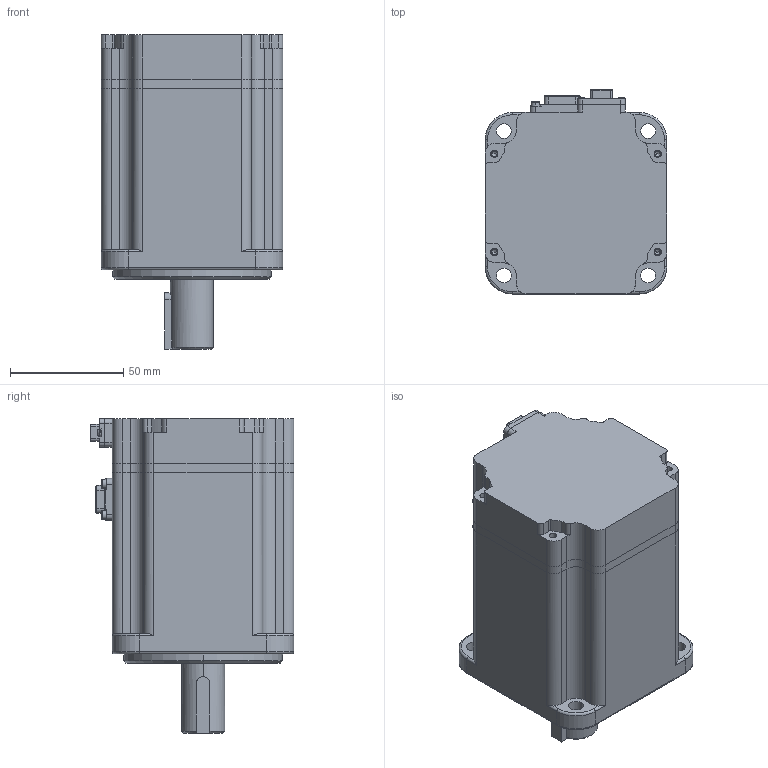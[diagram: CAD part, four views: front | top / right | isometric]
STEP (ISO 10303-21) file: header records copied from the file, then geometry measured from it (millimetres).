
FILE_DESCRIPTION (( 'STEP AP203' ), '1' );
FILE_NAME ('307090108SS(SMK80S-0075-30MAK-5LSA)-V1.0.STEP', '2023-04-28T02:28:02', ( '' ), ( '' ), 'SwSTEP 2.0', 'SolidWorks 2022', '' );
FILE_SCHEMA (( 'CONFIG_CONTROL_DESIGN' ));
Length unit declared in the file: millimetre
Products named in the file (8): 后端盖（80（毛坯同：10109030172)-毛塑）-V1.0; 动力底座sc-mc6p-ae2g; 编码器罩-锐鹰绝对值分体磁编; 307090108SS(SMK80S-0075-30MAK-5LSA)-V1.0; 10109020758 机壳-80L78.1(侧边开孔)-毛塑-V1.0; hexagon socket head cap screws gb_GB_FASTENER_SCREWS_HSHCS M2X6-N; 键C型键; sc-mc7p-a82g-00-信号底座
Assembly tree (10 placements, depth 2):
  307090108SS(SMK80S-0075-30MAK-5LSA)-V1.0
    10109020758 机壳-80L78.1(侧边开孔)-毛塑-V1.0
    后端盖（80（毛坯同：10109030172)-毛塑）-V1.0
    编码器罩-锐鹰绝对值分体磁编
    动力底座sc-mc6p-ae2g
    sc-mc7p-a82g-00-信号底座
    键C型键
    hexagon socket head cap screws gb_GB_FASTENER_SCREWS_HSHCS M2X6-N  x4
Bounding box: 80 x 89.8 x 138.7 mm (x, y, z)
Volume: 586527.6 mm3; surface area: 84550.1 mm2
Topology: 12 solids, 12 shells, 1870 faces, 4845 edges, 3026 vertices
Faces by surface type: plane 955, cylinder 615, torus 162, cone 92, bspline 46
Entity records: 62372 total; most frequent: CARTESIAN_POINT 17706, ORIENTED_EDGE 9210, DIRECTION 9033, EDGE_CURVE 4605, AXIS2_PLACEMENT_3D 3155, VERTEX_POINT 2927, VECTOR 2723, LINE 2723
